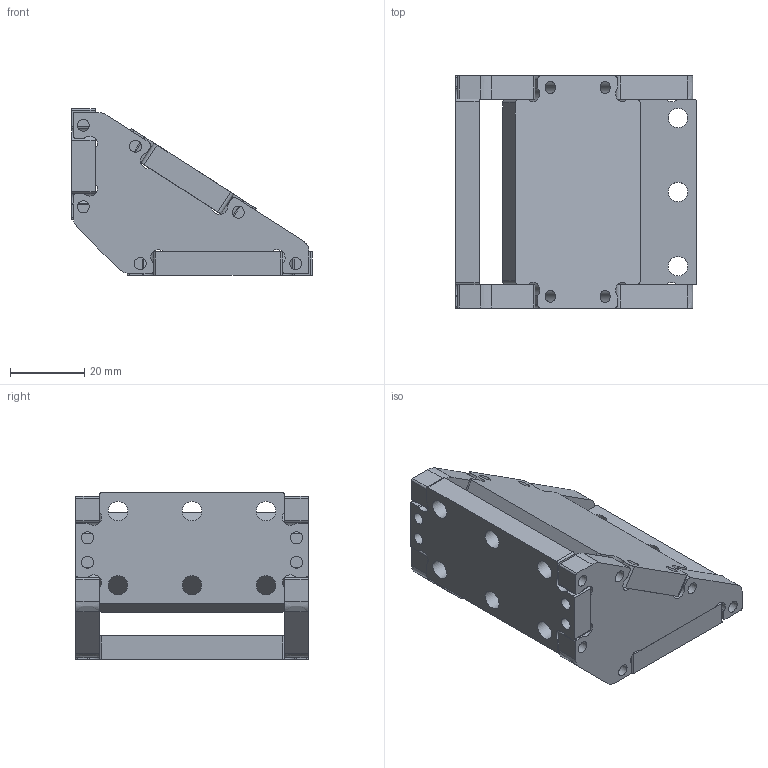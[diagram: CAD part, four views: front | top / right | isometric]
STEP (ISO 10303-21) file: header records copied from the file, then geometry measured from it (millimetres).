
FILE_DESCRIPTION(/* description */ (''),/* implementation_level */ '2;1');
FILE_NAME(/* name */ 'D:/Dropbox (Personal)/CBA/projects/machines/uSSM/cad/RCTBLK-90-025ALU_2-3-3.step',/* time_stamp */ '2018-10-31T10:34:43-04:00',/* author */ ('jakerobertread@gmail.com'),/* organization */ (''),/* preprocessor_version */ 'ST-DEVELOPER v17.2',/* originating_system */ 'Autodesk Translation Framework v7.6.0.251',/* authorisation */ '');
FILE_SCHEMA (('AUTOMOTIVE_DESIGN { 1 0 10303 214 3 1 1 }'));
Length unit declared in the file: millimetre
Products named in the file (1): RCTBLK-90-025ALU
Bounding box: 65 x 62.7 x 45 mm (x, y, z)
Volume: 56046.6 mm3; surface area: 27449.8 mm2
Topology: 5 solids, 5 shells, 233 faces, 679 edges, 456 vertices
Faces by surface type: cylinder 115, plane 82, bspline 36
Full cylindrical faces by diameter (mm): 3.25 x24, 5.25 x15
Entity records: 8614 total; most frequent: CARTESIAN_POINT 2401, ORIENTED_EDGE 1358, DIRECTION 1171, EDGE_CURVE 679, VERTEX_POINT 456, AXIS2_PLACEMENT_3D 438, EDGE_LOOP 311, LINE 295
